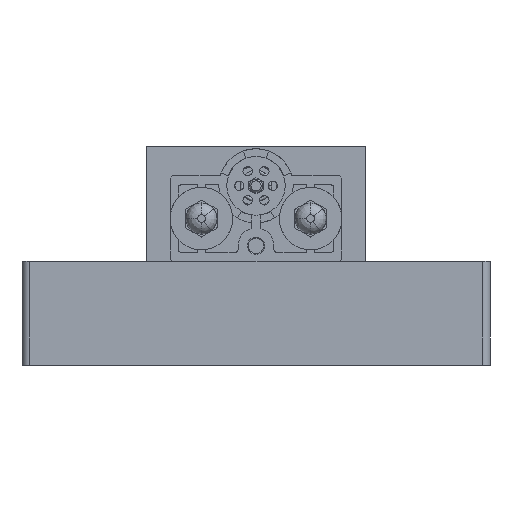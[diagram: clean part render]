
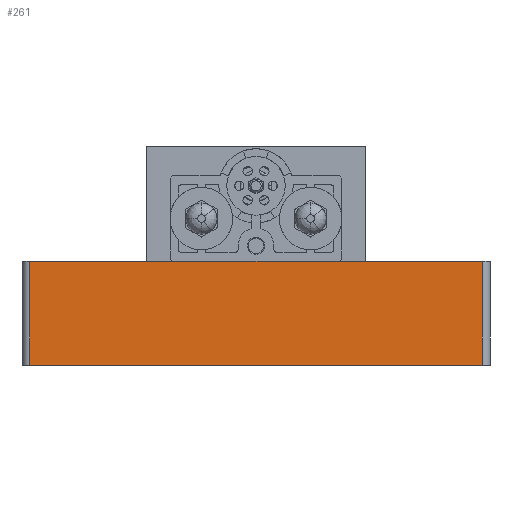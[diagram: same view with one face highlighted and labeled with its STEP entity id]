
A CAD part, front view. The second image highlights one B-rep face of the part: STEP entity #261.
In plain terms, the highlighted planar face has unit normal (0, -1, 0) as drawn and (-1, 0, 0) by its records, which use the part's own axes.
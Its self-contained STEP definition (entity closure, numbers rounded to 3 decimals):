
#234=AXIS2_PLACEMENT_3D('Plane Axis2P3D',#231,#232,#233) ;
#205=CARTESIAN_POINT('Line Origine',(-16.,23.5,6.04)) ;
#209=CARTESIAN_POINT('Vertex',(-16.,23.5,13.3)) ;
#211=CARTESIAN_POINT('Vertex',(-16.,23.5,0.)) ;
#231=CARTESIAN_POINT('Axis2P3D Location',(-16.,24.5,0.)) ;
#236=CARTESIAN_POINT('Line Origine',(-16.,-5.5,13.3)) ;
#240=CARTESIAN_POINT('Vertex',(-16.,-34.5,13.3)) ;
#243=CARTESIAN_POINT('Line Origine',(-16.,-5.5,0.)) ;
#247=CARTESIAN_POINT('Vertex',(-16.,-34.5,0.)) ;
#250=CARTESIAN_POINT('Line Origine',(-16.,-34.5,6.65)) ;
#206=DIRECTION('Vector Direction',(0.,0.,1.)) ;
#232=DIRECTION('Axis2P3D Direction',(-1.,0.,0.)) ;
#233=DIRECTION('Axis2P3D XDirection',(0.,-1.,0.)) ;
#237=DIRECTION('Vector Direction',(0.,-1.,0.)) ;
#244=DIRECTION('Vector Direction',(0.,-1.,0.)) ;
#251=DIRECTION('Vector Direction',(0.,0.,-1.)) ;
#207=VECTOR('Line Direction',#206,1.) ;
#238=VECTOR('Line Direction',#237,1.) ;
#245=VECTOR('Line Direction',#244,1.) ;
#252=VECTOR('Line Direction',#251,1.) ;
#256=ORIENTED_EDGE('',*,*,#242,.F.) ;
#257=ORIENTED_EDGE('',*,*,#213,.T.) ;
#258=ORIENTED_EDGE('',*,*,#249,.T.) ;
#259=ORIENTED_EDGE('',*,*,#254,.F.) ;
#261=ADVANCED_FACE('\X2\96F64EF651E04F554F53\X0\',(#260),#235,.T.) ;
#213=EDGE_CURVE('',#210,#212,#208,.F.) ;
#242=EDGE_CURVE('',#210,#241,#239,.T.) ;
#249=EDGE_CURVE('',#212,#248,#246,.T.) ;
#254=EDGE_CURVE('',#241,#248,#253,.T.) ;
#255=EDGE_LOOP('',(#256,#257,#258,#259)) ;
#260=FACE_OUTER_BOUND('',#255,.T.) ;
#208=LINE('Line',#205,#207) ;
#239=LINE('Line',#236,#238) ;
#246=LINE('Line',#243,#245) ;
#253=LINE('Line',#250,#252) ;
#235=PLANE('',#234) ;
#210=VERTEX_POINT('',#209) ;
#212=VERTEX_POINT('',#211) ;
#241=VERTEX_POINT('',#240) ;
#248=VERTEX_POINT('',#247) ;
